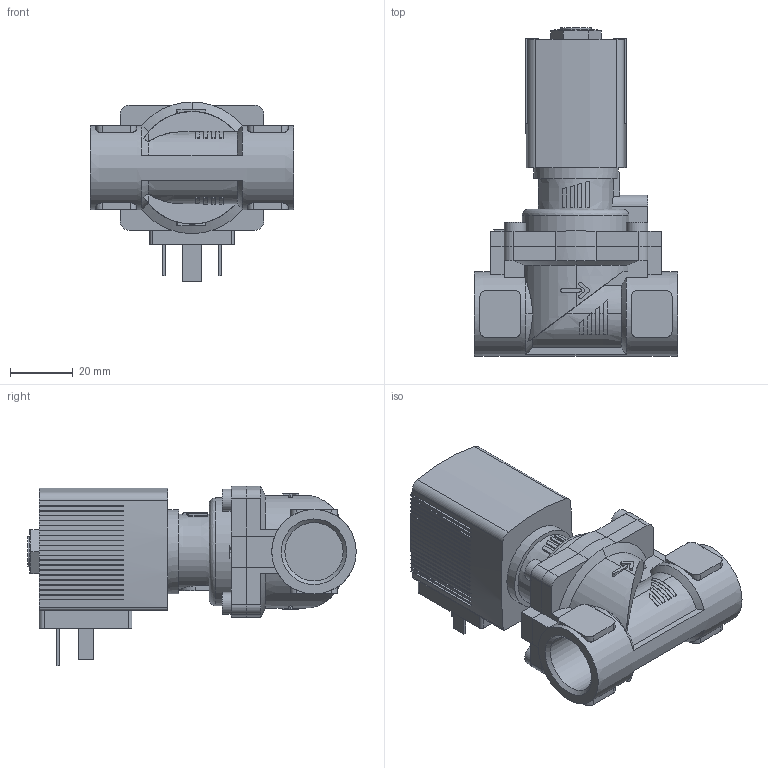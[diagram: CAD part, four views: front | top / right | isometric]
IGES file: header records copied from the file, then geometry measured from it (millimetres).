
Start section: Data from Parasolid IGES Translator 26.0.171, Copyright(c) 2006 Siemens PLM Software. All Rights Reserved.
Global section: file name: 6281-268404-2_2-Way_Solenoid_Valve__Servo-assisted__General_Purpose.igs; native system: By Siemens PLM Incorporated; preprocessor: XPlus GENERIC/IGES 26.0.171; author: Noname; organization: Noname; date: 20240617.150243; units: millimetre
Bounding box: 65 x 105 x 57.5 mm (x, y, z)
Surface area: 30269.6 mm2 (no closed solid volume)
Topology: 0 solids, 0 shells, 570 faces, 3176 edges, 3168 vertices
Faces by surface type: extrusion 441, revolution 129
